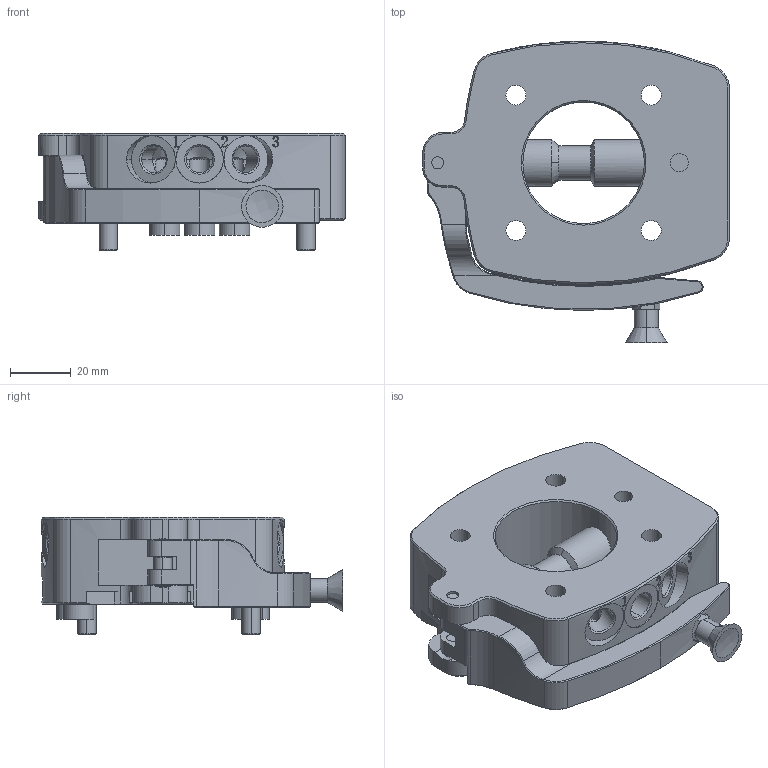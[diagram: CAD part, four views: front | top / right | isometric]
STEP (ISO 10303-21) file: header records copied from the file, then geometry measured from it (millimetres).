
FILE_DESCRIPTION (( 'STEP AP203' ), '1' );
FILE_NAME ('QC-R18.STEP', '2025-01-06T11:25:31', ( 'Windows User' ), ( 'P R C' ), 'SwSTEP 2.0', 'SolidWorks 2018', '' );
FILE_SCHEMA (( 'CONFIG_CONTROL_DESIGN' ));
Length unit declared in the file: millimetre
Products named in the file (1): QC-R18
Bounding box: 101 x 99.16 x 38.5 mm (x, y, z)
Surface area: 39551.2 mm2 (no closed solid volume)
Topology: 0 solids, 7 shells, 625 faces, 1570 edges, 983 vertices
Faces by surface type: cylinder 205, plane 177, cone 153, bspline 90
Entity records: 33840 total; most frequent: CARTESIAN_POINT 19091, ORIENTED_EDGE 3106, DIRECTION 2980, EDGE_CURVE 1555, AXIS2_PLACEMENT_3D 1137, VERTEX_POINT 982, VECTOR 706, LINE 706
